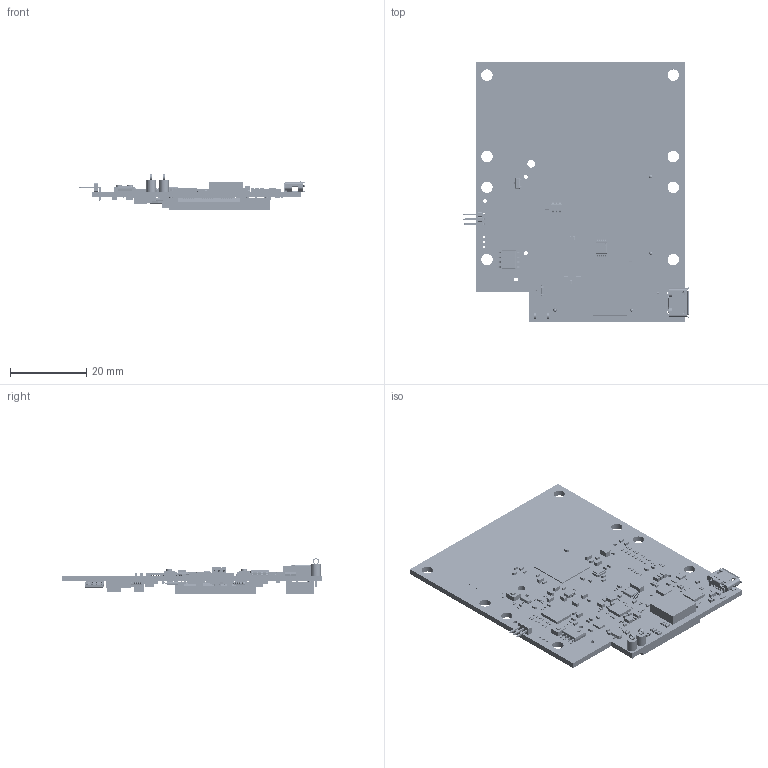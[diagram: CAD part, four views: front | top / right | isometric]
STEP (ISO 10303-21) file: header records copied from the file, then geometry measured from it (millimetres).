
FILE_DESCRIPTION(('Open CASCADE Model'),'2;1');
FILE_NAME('Open CASCADE Shape Model','2020-07-17T14:21:06',('Author'),( 'Open CASCADE'),'Open CASCADE STEP processor 6.8','Open CASCADE 6.8' ,'Unknown');
FILE_SCHEMA(('AUTOMOTIVE_DESIGN { 1 0 10303 214 1 1 1 1 }'));
Length unit declared in the file: millimetre
Products named in the file (626): PCB; Board; TP12; Keystone_5001; Keystone5001_black; Keystone500x_wire; U16; DRB0008B; BODY-SON; FRAME-DRB0008B; FRAME-DRB0008B_3; FRAME-DRB0008B_4; FRAME-DRB0008B_5; FRAME-DRB0008B_6; FRAME-DRB0008B_7; FRAME-DRB0008B_8; FRAME-DRB0008B_9; FRAME-DRB0008B_10; FRAME-DRB0008B_11; C96; 5993480832; Extruded; 5993480640; C95; C97; C88; C87; 5993480448; 5936168768; C86; C93; 5936168576; 5936168384; C92; C94; C89; 5936167808; 5936167616; C85; C84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
Assembly tree (1639 placements, depth 6):
  PCB
    Board
    TP12
      Keystone_5001
        Keystone5001_black
        Keystone500x_wire
    U16
      DRB0008B
        BODY-SON
        FRAME-DRB0008B
          FRAME-DRB0008B_3
          FRAME-DRB0008B_4
          FRAME-DRB0008B_5
          FRAME-DRB0008B_6
          FRAME-DRB0008B_7
          FRAME-DRB0008B_8
          FRAME-DRB0008B_9
          FRAME-DRB0008B_10
          FRAME-DRB0008B_11
    C96
      5993480832  x2
        Extruded
      5993480640
        Extruded
    C95
      5993480832  x2
        Extruded
      5993480640
        Extruded
    C97
      5993480832  x2
        Extruded
      5993480640
        Extruded
    C88
      5993480832  x2
        Extruded
      5993480640
        Extruded
    C87
      5993480448  x2
        Extruded
      5936168768
        Extruded
    C86
      5993480448  x2
        Extruded
      5936168768
        Extruded
    C93
      5936168576  x2
        Extruded
      5936168384
        Extruded
    C92
      5936168576  x2
        Extruded
      5936168384
        Extruded
    C94
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Bounding box: 59.42 x 68.46 x 9.39 mm (x, y, z)
Volume: 6839.2 mm3; surface area: 14839.1 mm2
Topology: 1391 solids, 1391 shells, 17957 faces, 45515 edges, 29889 vertices
Faces by surface type: plane 13503, cylinder 2136, bspline 1764, sphere 534, torus 12, revolution 8
Full cylindrical faces by diameter (mm): 0.25 x1, 0.4 x1, 0.6 x6, 0.85 x2, 1.016 x4, 1.02 x6, 2.032 x1, 2.5 x2, 3 x8
Entity records: 244014 total; most frequent: CARTESIAN_POINT 48299, ORIENTED_EDGE 36094, DIRECTION 33773, EDGE_CURVE 18047, LINE 14351, VECTOR 14351, VERTEX_POINT 11864, AXIS2_PLACEMENT_3D 9709
